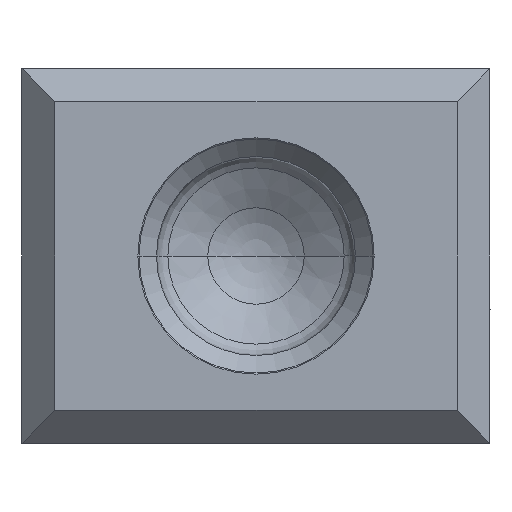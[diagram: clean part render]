
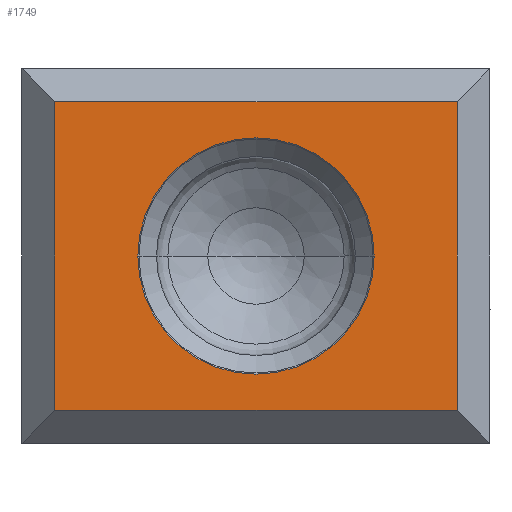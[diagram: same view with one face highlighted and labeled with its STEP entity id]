
A CAD part, left-side view. The second image highlights one B-rep face of the part: STEP entity #1749.
In plain terms, the highlighted planar face has unit normal (-1, 0, 0).
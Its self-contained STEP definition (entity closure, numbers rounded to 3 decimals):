
#247=DIRECTION('',(0.,1.,0.));
#248=VECTOR('',#247,8.6);
#249=CARTESIAN_POINT('',(-22.,0.7,3.3));
#250=LINE('',#249,#248);
#255=DIRECTION('',(0.,0.,-1.));
#256=VECTOR('',#255,6.6);
#257=CARTESIAN_POINT('',(-22.,0.7,3.3));
#258=LINE('',#257,#256);
#259=DIRECTION('',(0.,1.,0.));
#260=VECTOR('',#259,8.6);
#261=CARTESIAN_POINT('',(-22.,0.7,-3.3));
#262=LINE('',#261,#260);
#263=CARTESIAN_POINT('',(-22.,5.,0.));
#264=DIRECTION('',(-1.,0.,0.));
#265=DIRECTION('',(0.,1.,0.));
#266=AXIS2_PLACEMENT_3D('',#263,#264,#265);
#268=CARTESIAN_POINT('',(-22.,5.,0.));
#269=DIRECTION('',(-1.,0.,0.));
#270=DIRECTION('',(0.,-1.,0.));
#271=AXIS2_PLACEMENT_3D('',#268,#269,#270);
#654=DIRECTION('',(0.,0.,-1.));
#655=VECTOR('',#654,6.6);
#656=CARTESIAN_POINT('',(-22.,9.3,3.3));
#657=LINE('',#656,#655);
#1474=CARTESIAN_POINT('',(-22.,0.7,3.3));
#1475=CARTESIAN_POINT('',(-22.,9.3,3.3));
#1476=VERTEX_POINT('',#1474);
#1477=VERTEX_POINT('',#1475);
#1478=CARTESIAN_POINT('',(-22.,0.7,-3.3));
#1479=VERTEX_POINT('',#1478);
#1480=CARTESIAN_POINT('',(-22.,9.3,-3.3));
#1481=VERTEX_POINT('',#1480);
#1482=CARTESIAN_POINT('',(-22.,7.525,0.));
#1483=CARTESIAN_POINT('',(-22.,2.475,0.));
#1484=VERTEX_POINT('',#1482);
#1485=VERTEX_POINT('',#1483);
#1729=CARTESIAN_POINT('',(-22.,10.25,-5.25));
#1730=DIRECTION('',(-1.,0.,0.));
#1731=DIRECTION('',(0.,-1.,0.));
#1732=AXIS2_PLACEMENT_3D('',#1729,#1730,#1731);
#1733=PLANE('',#1732);
#1735=ORIENTED_EDGE('',*,*,#1734,.T.);
#1737=ORIENTED_EDGE('',*,*,#1736,.T.);
#1739=ORIENTED_EDGE('',*,*,#1738,.F.);
#1740=ORIENTED_EDGE('',*,*,#1719,.F.);
#1741=EDGE_LOOP('',(#1735,#1737,#1739,#1740));
#1742=FACE_OUTER_BOUND('',#1741,.F.);
#1744=ORIENTED_EDGE('',*,*,#1743,.T.);
#1746=ORIENTED_EDGE('',*,*,#1745,.T.);
#1747=EDGE_LOOP('',(#1744,#1746));
#1748=FACE_BOUND('',#1747,.F.);
#1749=ADVANCED_FACE('',(#1742,#1748),#1733,.T.);
#267=CIRCLE('',#266,2.525);
#272=CIRCLE('',#271,2.525);
#1719=EDGE_CURVE('',#1476,#1477,#250,.T.);
#1734=EDGE_CURVE('',#1476,#1479,#258,.T.);
#1736=EDGE_CURVE('',#1479,#1481,#262,.T.);
#1738=EDGE_CURVE('',#1477,#1481,#657,.T.);
#1743=EDGE_CURVE('',#1484,#1485,#267,.T.);
#1745=EDGE_CURVE('',#1485,#1484,#272,.T.);
